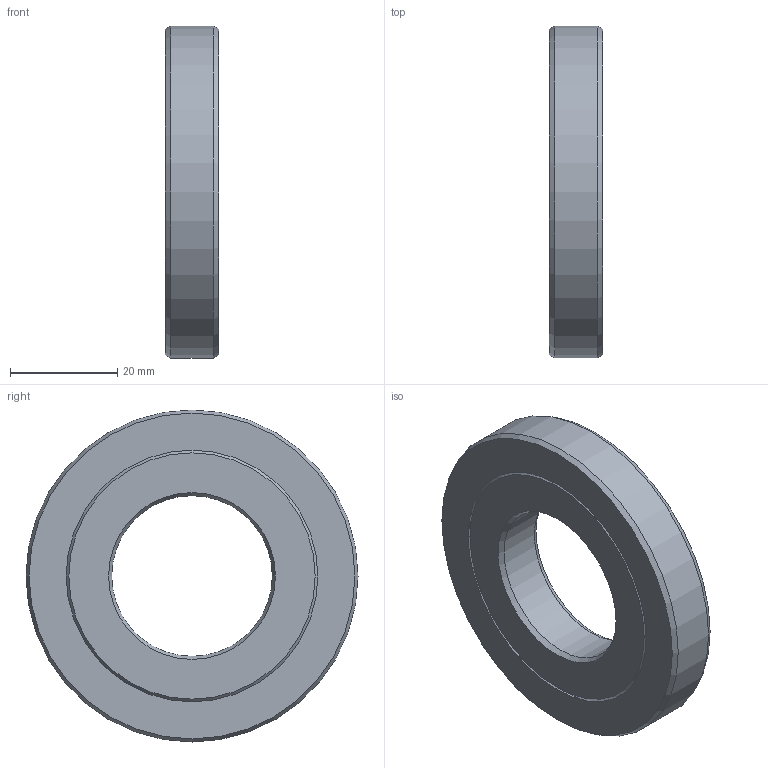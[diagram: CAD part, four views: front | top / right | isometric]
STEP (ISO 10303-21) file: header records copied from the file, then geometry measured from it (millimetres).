
FILE_DESCRIPTION(/* description */ (''),/* implementation_level */ '2;1');
FILE_NAME(/* name */ '301537 S30x62x10.stp',/* time_stamp */ '2016-12-16T13:32:41+01:00',/* author */ (''),/* organization */ (''),/* preprocessor_version */ 'ST-DEVELOPER v15',/* originating_system */ 'SIEMENS PLM Software NX 8.5',/* authorisation */ '');
FILE_SCHEMA (('CONFIG_CONTROL_DESIGN'));
Length unit declared in the file: millimetre
Products named in the file (1): ATE0000143_01
Bounding box: 10 x 62 x 62 mm (x, y, z)
Volume: 22148 mm3; surface area: 11051.2 mm2
Topology: 2 solids, 2 shells, 16 faces, 30 edges, 18 vertices
Faces by surface type: cone 10, plane 4, cylinder 2
Full cylindrical faces by diameter (mm): 30 x1, 62 x1
Entity records: 414 total; most frequent: DIRECTION 66, CARTESIAN_POINT 49, AXIS2_PLACEMENT_3D 33, FACE_BOUND 32, EDGE_LOOP 32, ORIENTED_EDGE 32, ADVANCED_FACE 16, VERTEX_POINT 16
